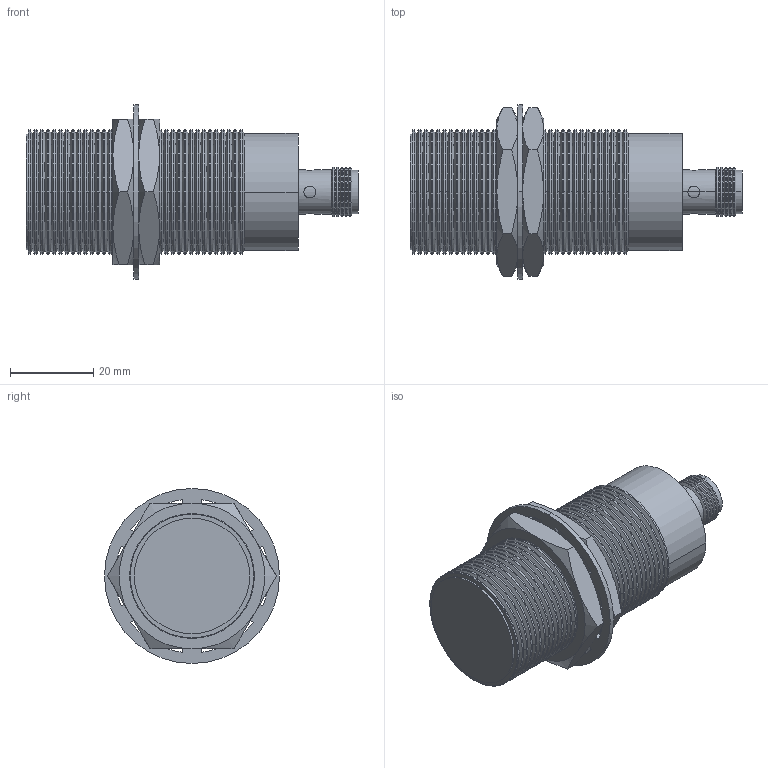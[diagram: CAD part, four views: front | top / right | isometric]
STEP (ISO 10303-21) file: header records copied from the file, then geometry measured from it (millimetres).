
FILE_DESCRIPTION (( 'STEP AP203' ), '1' );
FILE_NAME ('90-29417-063.STEP', '2015-11-15T19:21:06', ( 'Sam' ), ( 'Spade' ), 'SwSTEP 2.0', 'SolidWorks 2002296', '' );
FILE_SCHEMA (( 'CONFIG_CONTROL_DESIGN' ));
Length unit declared in the file: inch
Products named in the file (12): 90-29417-063; Imported95; Imported94; Imported93; Imported92; Imported87; Imported86; Imported85; Imported88; Imported91; Imported90; Imported89
Assembly tree (11 placements, depth 2):
  90-29417-063
    Imported94
    Imported86
    Imported93
    Imported91
    Imported90
    Imported95
    Imported87
    Imported85
    Imported89
    Imported92
    Imported88
Bounding box: 79.83 x 42.06 x 42.06 mm (x, y, z)
Volume: 48812.7 mm3; surface area: 19132.7 mm2
Topology: 11 solids, 11 shells, 446 faces, 1063 edges, 633 vertices
Faces by surface type: cone 212, cylinder 153, plane 75, bspline 6
Entity records: 14705 total; most frequent: CARTESIAN_POINT 2856, DIRECTION 2417, ORIENTED_EDGE 2114, EDGE_CURVE 1057, AXIS2_PLACEMENT_3D 970, VERTEX_POINT 633, CIRCLE 516, LINE 477
